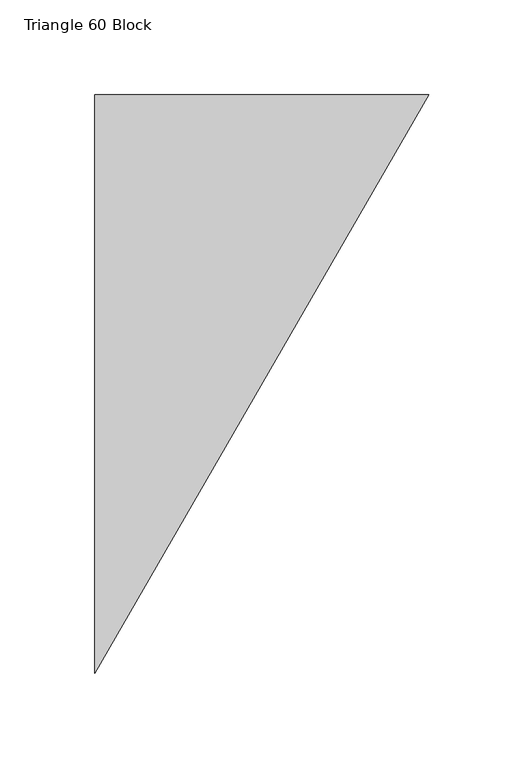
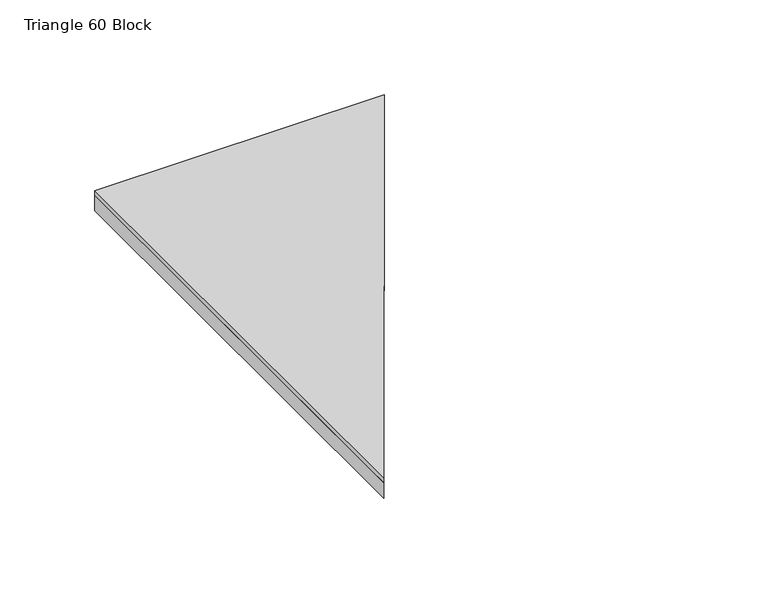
"""IFC4 building model written with IfcOpenShell, lengths in millimetres: proxy geometry, FilzFelt_Triangle_60_Block : Triangle 60 Block."""

from ifc_helpers import new_model, si_unit, frame, origin, origin_with_axes, place, context, project, spatial, polyline, outline, extrude, source, transform, mapped, element, save


def triangle_60_block_745a5d07(model_context):
    return source(origin(), model_context, "Body", "SweptSolid", [
        extrude(outline(polyline([(0.0, -152.7090029), (0.0, 152.5), (176.2125, 152.5), (0.0, -152.7090029)])), frame((0.0, 0.0, 10.0210937), z_axis=(0.0, 0.0, 1.0), x_axis=(1.0, 0.0, 0.0)), (0.0, 0.0, 1.0), 2.9765625),
        extrude(outline(polyline([(0.0, -152.7090029), (0.0, 152.5), (176.2125, 152.5), (0.0, -152.7090029)])), origin_with_axes(), (0.0, 0.0, 1.0), 10.0210938),
    ])


if __name__ == "__main__":
    model = new_model("IFC4")
    model_context = context("Model", 3, world=origin())
    ifc_project = project(units=[si_unit("LENGTHUNIT", "METRE", prefix="MILLI")], contexts=[model_context])
    site = spatial("IfcSite", under=ifc_project)
    building = spatial("IfcBuilding", under=site)
    placement = place(None, origin())
    triangle_60_block_shape = triangle_60_block_745a5d07(model_context)
    element("IfcBuildingElementProxy", 1, Name="FilzFelt_Triangle_60_Block : Triangle 60 Block", ObjectType="FilzFelt_Triangle_60_Block : Triangle 60 Block", at=placement, inside=building, context=model_context, shape_type="MappedRepresentation", body=[
        mapped(triangle_60_block_shape, transform((0.0, 0.0, 0.0), x_axis=(1.0, 0.0, 0.0), y_axis=(0.0, 1.0, 0.0), z_axis=(0.0, 0.0, 1.0))),
    ])
    save(model, "model.ifc")
